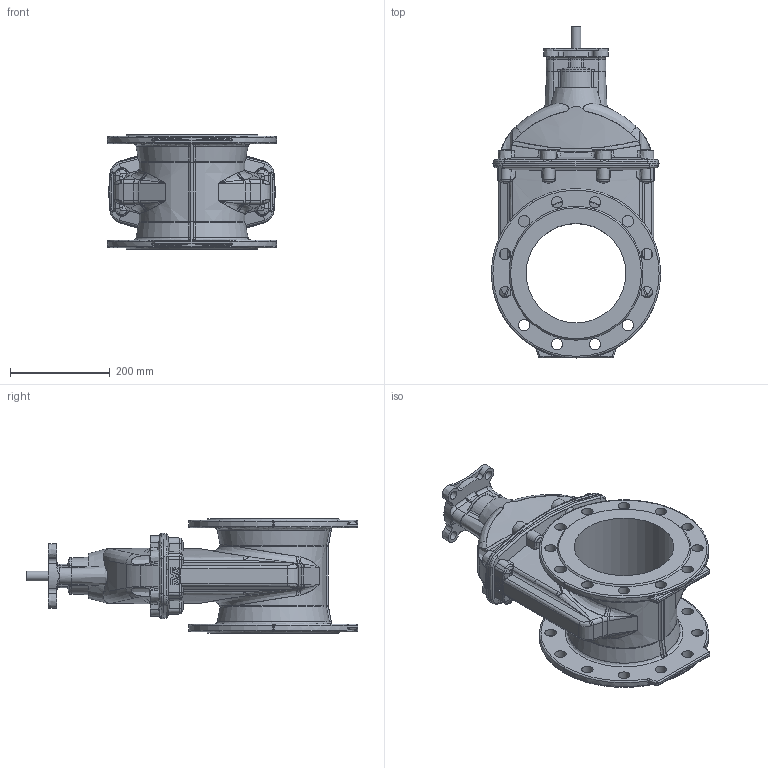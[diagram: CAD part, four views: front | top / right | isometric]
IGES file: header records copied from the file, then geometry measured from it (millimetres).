
Start section: SolidWorks IGES file using analytic representation for surfaces
Global section: file name: \\avksan2\techshare\PBM outline export from Enovia\O_06_42_DN200_X1XXX_REV02.igs; native system: SolidWorks 2022; preprocessor: SolidWorks 2022; author: pbm; date: 251218.075852; units: millimetre
Bounding box: 339.99 x 667 x 230 mm (x, y, z)
Surface area: 847978.3 mm2 (no closed solid volume)
Topology: 0 solids, 0 shells, 692 faces, 3551 edges, 3474 vertices
Faces by surface type: revolution 359, bspline 333
